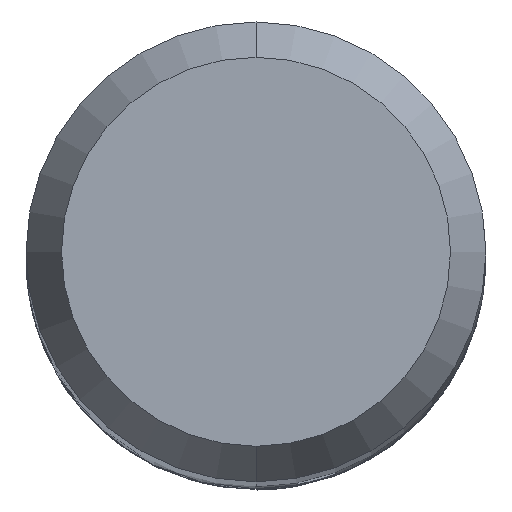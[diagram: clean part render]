
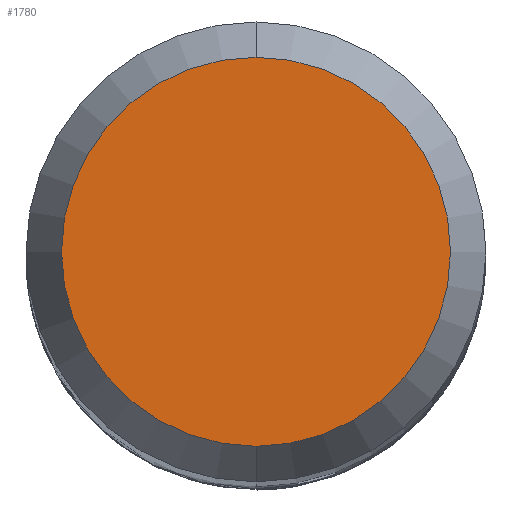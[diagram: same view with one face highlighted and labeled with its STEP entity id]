
A CAD part, top view. The second image highlights one B-rep face of the part: STEP entity #1780.
In plain terms, the highlighted planar face has unit normal (0, 0, 1).
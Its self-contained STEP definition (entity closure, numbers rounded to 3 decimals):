
#1106=VERTEX_POINT('',#2678);
#1182=EDGE_CURVE('',#1748,#1106,#2762,.T.);
#1748=VERTEX_POINT('',#3381);
#1780=ADVANCED_FACE('',(#3415),#3416,.T.);
#2128=EDGE_CURVE('',#1106,#1748,#3797,.T.);
#2678=CARTESIAN_POINT('',(0.,-2.538,0.0));
#2762=CIRCLE('',#7193,2.538);
#3381=CARTESIAN_POINT('',(0.0,2.538,0.0));
#3415=FACE_OUTER_BOUND('',#14696,.T.);
#3416=PLANE('',#14697);
#3797=CIRCLE('',#20539,2.538);
#7193=AXIS2_PLACEMENT_3D('',#22540,#22541,#22542);
#14696=EDGE_LOOP('',(#23163,#23164));
#14697=AXIS2_PLACEMENT_3D('',#23165,#23166,#23167);
#20539=AXIS2_PLACEMENT_3D('',#23482,#23483,#23484);
#22540=CARTESIAN_POINT('',(0.0,0.0,0.0));
#22541=DIRECTION('',(0.0,0.0,-1.0));
#22542=DIRECTION('',(0.0,1.0,0.0));
#23163=ORIENTED_EDGE('',*,*,#1182,.F.);
#23164=ORIENTED_EDGE('',*,*,#2128,.F.);
#23165=CARTESIAN_POINT('',(0.0,1.269,0.0));
#23166=DIRECTION('',(-0.0,0.0,1.0));
#23167=DIRECTION('',(0.0,-1.0,0.0));
#23482=CARTESIAN_POINT('',(0.0,0.0,0.0));
#23483=DIRECTION('',(0.0,0.0,-1.0));
#23484=DIRECTION('',(0.0,1.0,0.0));
